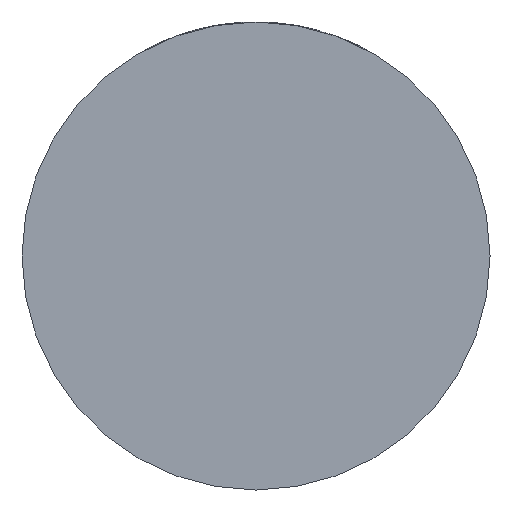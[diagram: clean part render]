
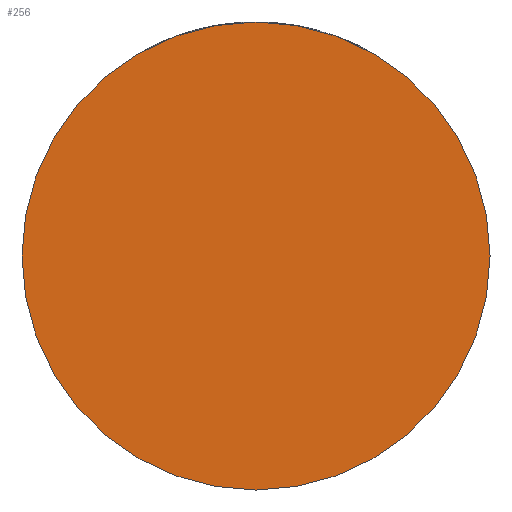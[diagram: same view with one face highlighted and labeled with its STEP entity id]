
A CAD part, front view. The second image highlights one B-rep face of the part: STEP entity #256.
In plain terms, the highlighted planar face has unit normal (0, -1, 0).
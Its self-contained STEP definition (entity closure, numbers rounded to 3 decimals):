
#84 = CARTESIAN_POINT ( 'NONE',  ( 39., -36., 0. ) ) ;
#130 = CIRCLE ( 'NONE', #1299, 39. ) ;
#193 = EDGE_CURVE ( 'NONE', #3889, #3085, #130, .T. ) ;
#218 = FACE_OUTER_BOUND ( 'NONE', #1017, .T. ) ;
#244 = DIRECTION ( 'NONE',  ( 1., 0., 0. ) ) ;
#256 = ADVANCED_FACE ( 'NONE', ( #218 ), #3027, .T. ) ;
#412 = DIRECTION ( 'NONE',  ( 0., -1., 0. ) ) ;
#671 = DIRECTION ( 'NONE',  ( 1., 0., 0. ) ) ;
#1017 = EDGE_LOOP ( 'NONE', ( #2485, #2246 ) ) ;
#1299 = AXIS2_PLACEMENT_3D ( 'NONE', #3071, #1964, #671 ) ;
#1340 = DIRECTION ( 'NONE',  ( 1., 0., 0. ) ) ;
#1668 = AXIS2_PLACEMENT_3D ( 'NONE', #3004, #4445, #244 ) ;
#1964 = DIRECTION ( 'NONE',  ( 0., -1., 0. ) ) ;
#2246 = ORIENTED_EDGE ( 'NONE', *, *, #3255, .T. ) ;
#2485 = ORIENTED_EDGE ( 'NONE', *, *, #193, .T. ) ;
#2530 = CIRCLE ( 'NONE', #4135, 39. ) ;
#2716 = CARTESIAN_POINT ( 'NONE',  ( 0., -36., 0. ) ) ;
#3004 = CARTESIAN_POINT ( 'NONE',  ( 0., -36., 0. ) ) ;
#3027 = PLANE ( 'NONE',  #1668 ) ;
#3071 = CARTESIAN_POINT ( 'NONE',  ( 0., -36., 0. ) ) ;
#3085 = VERTEX_POINT ( 'NONE', #84 ) ;
#3255 = EDGE_CURVE ( 'NONE', #3085, #3889, #2530, .T. ) ;
#3889 = VERTEX_POINT ( 'NONE', #4446 ) ;
#4135 = AXIS2_PLACEMENT_3D ( 'NONE', #2716, #412, #1340 ) ;
#4445 = DIRECTION ( 'NONE',  ( 0., -1., 0. ) ) ;
#4446 = CARTESIAN_POINT ( 'NONE',  ( -39., -36., 0. ) ) ;
